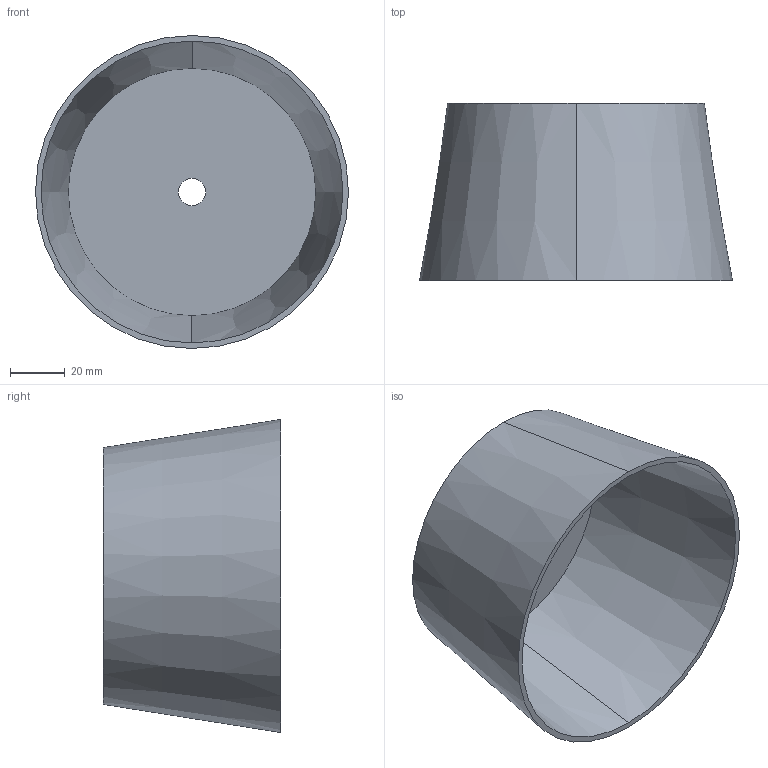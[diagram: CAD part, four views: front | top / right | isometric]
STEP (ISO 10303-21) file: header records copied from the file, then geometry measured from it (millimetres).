
FILE_DESCRIPTION (( 'STEP AP214' ), '1' );
FILE_NAME ('T0329.STEP', '2026-04-07T15:21:39', ( '' ), ( '' ), 'SwSTEP 2.0', 'SolidWorks 2023', '' );
FILE_SCHEMA (( 'AUTOMOTIVE_DESIGN' ));
Length unit declared in the file: millimetre
Products named in the file (1): T0329
Bounding box: 114.73 x 65 x 114.73 mm (x, y, z)
Volume: 55026.1 mm3; surface area: 55816.8 mm2
Topology: 1 solids, 1 shells, 9 faces, 18 edges, 12 vertices
Faces by surface type: cone 4, plane 3, cylinder 2
Entity records: 271 total; most frequent: DIRECTION 50, CARTESIAN_POINT 40, ORIENTED_EDGE 36, AXIS2_PLACEMENT_3D 22, EDGE_CURVE 18, EDGE_LOOP 12, VERTEX_POINT 12, CIRCLE 12
